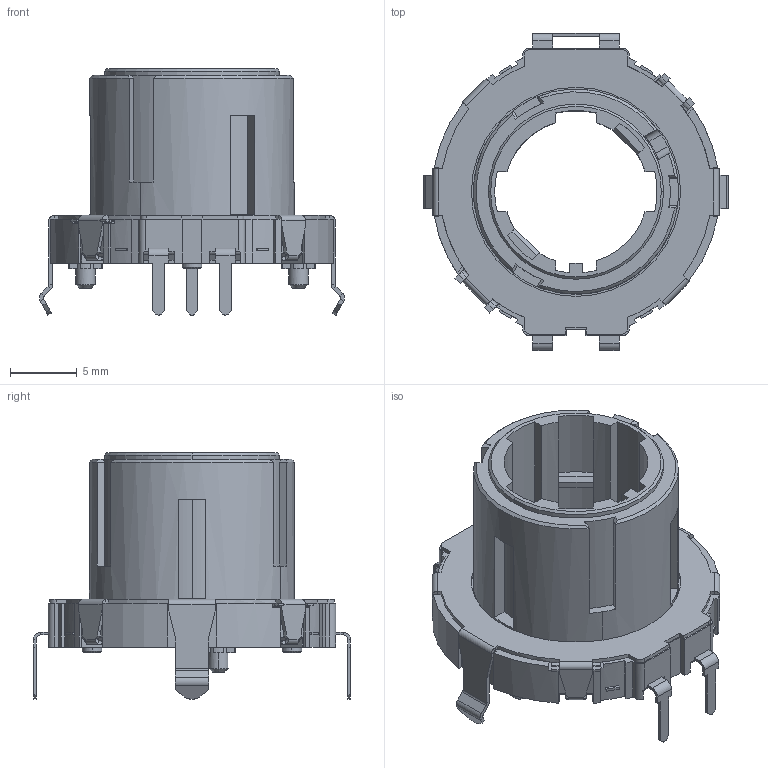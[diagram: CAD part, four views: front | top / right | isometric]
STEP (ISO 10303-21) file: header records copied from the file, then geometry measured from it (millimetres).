
FILE_DESCRIPTION (( 'STEP AP214' ), '1' );
FILE_NAME ('EC21A0950402.STEP', '2017-05-08T01:24:03', ( 'user' ), ( 'Hewlett-Packard Company' ), 'SwSTEP 2.0', 'SolidWorks 2014', '' );
FILE_SCHEMA (( 'AUTOMOTIVE_DESIGN' ));
Length unit declared in the file: millimetre
Products named in the file (1): EC21A0950402
Bounding box: 22.9 x 23.8 x 18.5 mm (x, y, z)
Volume: 1743.1 mm3; surface area: 2352 mm2
Topology: 1 solids, 1 shells, 705 faces, 1857 edges, 1159 vertices
Faces by surface type: plane 459, cylinder 202, bspline 30, cone 14
Entity records: 29326 total; most frequent: CARTESIAN_POINT 4549, ORIENTED_EDGE 3698, DIRECTION 3494, EDGE_CURVE 1849, LINE 1288, VECTOR 1288, VERTEX_POINT 1159, AXIS2_PLACEMENT_3D 1103
